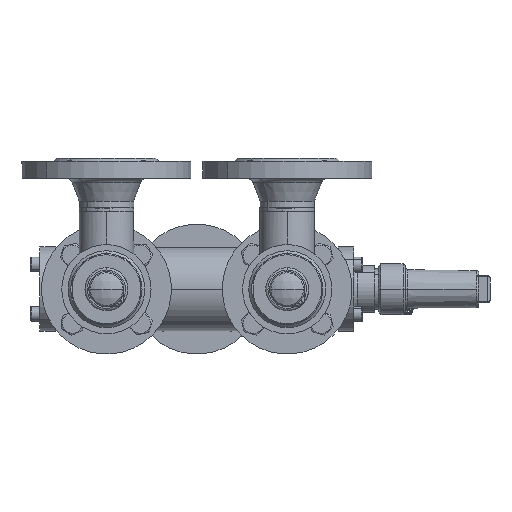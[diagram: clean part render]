
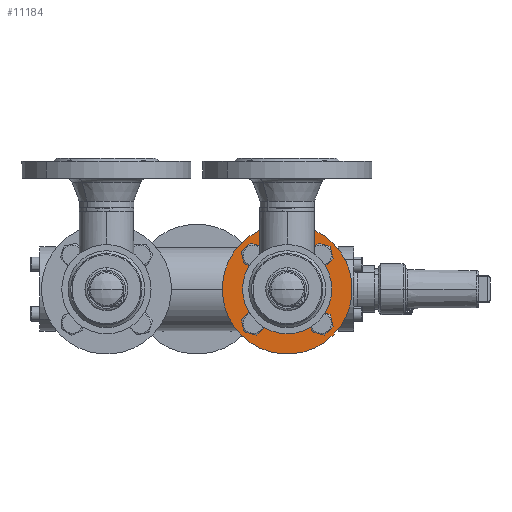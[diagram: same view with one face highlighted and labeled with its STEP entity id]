
A CAD part, left-side view. The second image highlights one B-rep face of the part: STEP entity #11184.
In plain terms, the highlighted planar face has unit normal (-1, 0, 0) as drawn and (0, 1, 0) by its records, which use the part's own axes.
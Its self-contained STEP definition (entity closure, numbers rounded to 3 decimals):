
#16691 = ORIENTED_EDGE ( 'NONE', *, *, #4059, .F. ) ;
#777 = CIRCLE ( 'NONE', #778, 7. ) ;
#778 = AXIS2_PLACEMENT_3D ( 'NONE', #779, #780, #815 ) ;
#779 = CARTESIAN_POINT ( 'NONE',  ( -42.5, 18., 0. ) ) ;
#780 = DIRECTION ( 'NONE',  ( 0., 1., 0. ) ) ;
#815 = DIRECTION ( 'NONE',  ( 1., 0., 0. ) ) ;
#17523 = CIRCLE ( 'NONE', #17524, 7. ) ;
#17524 = AXIS2_PLACEMENT_3D ( 'NONE', #17525, #17526, #17545 ) ;
#17525 = CARTESIAN_POINT ( 'NONE',  ( 0., 18., -42.5 ) ) ;
#17526 = DIRECTION ( 'NONE',  ( 0., 1., 0. ) ) ;
#17545 = DIRECTION ( 'NONE',  ( 0., 0., 1. ) ) ;
#1348 = VERTEX_POINT ( 'NONE', #35461 ) ;
#17764 = EDGE_CURVE ( 'NONE', #23124, #5913, #30249, .T. ) ;
#17860 = CARTESIAN_POINT ( 'NONE',  ( -57.5, 18., 0. ) ) ;
#18246 = CIRCLE ( 'NONE', #18247, 57.5 ) ;
#18247 = AXIS2_PLACEMENT_3D ( 'NONE', #18248, #18249, #18250 ) ;
#18248 = CARTESIAN_POINT ( 'NONE',  ( 0., 18., 0. ) ) ;
#18249 = DIRECTION ( 'NONE',  ( 0., 1., 0. ) ) ;
#18250 = DIRECTION ( 'NONE',  ( -1., 0., 0. ) ) ;
#1892 = VERTEX_POINT ( 'NONE', #36046 ) ;
#18359 = CIRCLE ( 'NONE', #18360, 57.5 ) ;
#18360 = AXIS2_PLACEMENT_3D ( 'NONE', #18361, #18362, #18363 ) ;
#18361 = CARTESIAN_POINT ( 'NONE',  ( 0., 18., 0. ) ) ;
#18362 = DIRECTION ( 'NONE',  ( 0., 1., 0. ) ) ;
#18363 = DIRECTION ( 'NONE',  ( -1., 0., 0. ) ) ;
#2113 = CARTESIAN_POINT ( 'NONE',  ( 49.5, 18., 0. ) ) ;
#18526 = ORIENTED_EDGE ( 'NONE', *, *, #17764, .F. ) ;
#2176 = CARTESIAN_POINT ( 'NONE',  ( 7., 18., -42.5 ) ) ;
#34989 = CIRCLE ( 'NONE', #34990, 7. ) ;
#34990 = AXIS2_PLACEMENT_3D ( 'NONE', #34991, #34992, #34993 ) ;
#34991 = CARTESIAN_POINT ( 'NONE',  ( 0., 18., 42.5 ) ) ;
#34992 = DIRECTION ( 'NONE',  ( 0., 1., 0. ) ) ;
#34993 = DIRECTION ( 'NONE',  ( 0., 0., -1. ) ) ;
#35461 = CARTESIAN_POINT ( 'NONE',  ( 7., 18., 42.5 ) ) ;
#19604 = EDGE_LOOP ( 'NONE', ( #18526, #16691 ) ) ;
#36046 = CARTESIAN_POINT ( 'NONE',  ( 25.748, 18., 0. ) ) ;
#20096 = ORIENTED_EDGE ( 'NONE', *, *, #41493, .F. ) ;
#4019 = ORIENTED_EDGE ( 'NONE', *, *, #32299, .F. ) ;
#4059 = EDGE_CURVE ( 'NONE', #5913, #23124, #40753, .T. ) ;
#21173 = EDGE_CURVE ( 'NONE', #40845, #1348, #34989, .T. ) ;
#21459 = FACE_BOUND ( 'NONE', #10680, .T. ) ;
#21460 = FACE_BOUND ( 'NONE', #6932, .T. ) ;
#21461 = FACE_BOUND ( 'NONE', #23015, .T. ) ;
#21462 = FACE_BOUND ( 'NONE', #19604, .T. ) ;
#21463 = FACE_BOUND ( 'NONE', #16197, .T. ) ;
#21464 = FACE_OUTER_BOUND ( 'NONE', #13800, .T. ) ;
#21488 = PLANE ( 'NONE',  #21489 ) ;
#5107 = EDGE_CURVE ( 'NONE', #31839, #14682, #777, .T. ) ;
#21489 = AXIS2_PLACEMENT_3D ( 'NONE', #21490, #21491, #21492 ) ;
#21490 = CARTESIAN_POINT ( 'NONE',  ( 57.5, 18., 0. ) ) ;
#21491 = DIRECTION ( 'NONE',  ( 0., -1., 0. ) ) ;
#21492 = DIRECTION ( 'NONE',  ( 1., 0., 0. ) ) ;
#21942 = ORIENTED_EDGE ( 'NONE', *, *, #21173, .F. ) ;
#5872 = ORIENTED_EDGE ( 'NONE', *, *, #5107, .F. ) ;
#5913 = VERTEX_POINT ( 'NONE', #2113 ) ;
#6056 = VERTEX_POINT ( 'NONE', #2176 ) ;
#22575 = CIRCLE ( 'NONE', #22597, 25.748 ) ;
#22597 = AXIS2_PLACEMENT_3D ( 'NONE', #22598, #22599, #22600 ) ;
#22598 = CARTESIAN_POINT ( 'NONE',  ( 0., 18., 0. ) ) ;
#22599 = DIRECTION ( 'NONE',  ( 0., 1., 0. ) ) ;
#22600 = DIRECTION ( 'NONE',  ( -1., 0., 0. ) ) ;
#39175 = CARTESIAN_POINT ( 'NONE',  ( -7., 18., 42.5 ) ) ;
#22860 = VERTEX_POINT ( 'NONE', #6924 ) ;
#23015 = EDGE_LOOP ( 'NONE', ( #21942, #20096 ) ) ;
#23124 = VERTEX_POINT ( 'NONE', #7194 ) ;
#6924 = CARTESIAN_POINT ( 'NONE',  ( -7., 18., -42.5 ) ) ;
#23307 = EDGE_CURVE ( 'NONE', #6056, #22860, #7386, .T. ) ;
#6932 = EDGE_LOOP ( 'NONE', ( #5872, #4019 ) ) ;
#7194 = CARTESIAN_POINT ( 'NONE',  ( 35.5, 18., 0. ) ) ;
#7386 = CIRCLE ( 'NONE', #7387, 7. ) ;
#7387 = AXIS2_PLACEMENT_3D ( 'NONE', #7388, #7389, #7390 ) ;
#7388 = CARTESIAN_POINT ( 'NONE',  ( 0., 18., -42.5 ) ) ;
#7389 = DIRECTION ( 'NONE',  ( 0., 1., 0. ) ) ;
#7390 = DIRECTION ( 'NONE',  ( 0., 0., 1. ) ) ;
#7439 = ORIENTED_EDGE ( 'NONE', *, *, #23307, .F. ) ;
#40239 = CARTESIAN_POINT ( 'NONE',  ( -25.748, 18., 0. ) ) ;
#40298 = CIRCLE ( 'NONE', #40299, 7. ) ;
#40299 = AXIS2_PLACEMENT_3D ( 'NONE', #40300, #40301, #40302 ) ;
#40300 = CARTESIAN_POINT ( 'NONE',  ( 0., 18., 42.5 ) ) ;
#40301 = DIRECTION ( 'NONE',  ( 0., 1., 0. ) ) ;
#40302 = DIRECTION ( 'NONE',  ( 0., 0., -1. ) ) ;
#24223 = CARTESIAN_POINT ( 'NONE',  ( -49.5, 18., 0. ) ) ;
#40753 = CIRCLE ( 'NONE', #40754, 7. ) ;
#40754 = AXIS2_PLACEMENT_3D ( 'NONE', #40755, #40792, #40793 ) ;
#40755 = CARTESIAN_POINT ( 'NONE',  ( 42.5, 18., 0. ) ) ;
#40792 = DIRECTION ( 'NONE',  ( 0., 1., 0. ) ) ;
#40793 = DIRECTION ( 'NONE',  ( -1., 0., 0. ) ) ;
#40845 = VERTEX_POINT ( 'NONE', #39175 ) ;
#24557 = CARTESIAN_POINT ( 'NONE',  ( 57.5, 18., 0. ) ) ;
#24712 = CIRCLE ( 'NONE', #24713, 7. ) ;
#24713 = AXIS2_PLACEMENT_3D ( 'NONE', #24735, #24736, #24737 ) ;
#41100 = CIRCLE ( 'NONE', #41101, 25.748 ) ;
#41101 = AXIS2_PLACEMENT_3D ( 'NONE', #41102, #41103, #41104 ) ;
#41102 = CARTESIAN_POINT ( 'NONE',  ( 0., 18., 0. ) ) ;
#41103 = DIRECTION ( 'NONE',  ( 0., 1., 0. ) ) ;
#41104 = DIRECTION ( 'NONE',  ( -1., 0., 0. ) ) ;
#24735 = CARTESIAN_POINT ( 'NONE',  ( -42.5, 18., 0. ) ) ;
#24736 = DIRECTION ( 'NONE',  ( 0., 1., 0. ) ) ;
#24737 = DIRECTION ( 'NONE',  ( 1., 0., 0. ) ) ;
#8503 = EDGE_CURVE ( 'NONE', #22860, #6056, #17523, .T. ) ;
#41385 = VERTEX_POINT ( 'NONE', #40239 ) ;
#41493 = EDGE_CURVE ( 'NONE', #1348, #40845, #40298, .T. ) ;
#42032 = EDGE_CURVE ( 'NONE', #1892, #41385, #41100, .T. ) ;
#9270 = ORIENTED_EDGE ( 'NONE', *, *, #8503, .F. ) ;
#10680 = EDGE_LOOP ( 'NONE', ( #9270, #7439 ) ) ;
#27400 = CARTESIAN_POINT ( 'NONE',  ( -35.5, 18., 0. ) ) ;
#11184 = ADVANCED_FACE ( 'NONE', ( #21459, #21460, #21461, #21462, #21463, #21464 ), #21488, .F. ) ;
#11978 = EDGE_CURVE ( 'NONE', #41385, #1892, #22575, .T. ) ;
#29479 = VERTEX_POINT ( 'NONE', #17860 ) ;
#29782 = EDGE_CURVE ( 'NONE', #32105, #29479, #18246, .T. ) ;
#29934 = EDGE_CURVE ( 'NONE', #29479, #32105, #18359, .T. ) ;
#13800 = EDGE_LOOP ( 'NONE', ( #31611, #30543 ) ) ;
#30249 = CIRCLE ( 'NONE', #30250, 7. ) ;
#30250 = AXIS2_PLACEMENT_3D ( 'NONE', #30251, #30252, #30253 ) ;
#30251 = CARTESIAN_POINT ( 'NONE',  ( 42.5, 18., 0. ) ) ;
#30252 = DIRECTION ( 'NONE',  ( 0., 1., 0. ) ) ;
#30253 = DIRECTION ( 'NONE',  ( -1., 0., 0. ) ) ;
#14082 = ORIENTED_EDGE ( 'NONE', *, *, #42032, .F. ) ;
#30543 = ORIENTED_EDGE ( 'NONE', *, *, #29782, .T. ) ;
#14682 = VERTEX_POINT ( 'NONE', #27400 ) ;
#15135 = ORIENTED_EDGE ( 'NONE', *, *, #11978, .F. ) ;
#31611 = ORIENTED_EDGE ( 'NONE', *, *, #29934, .T. ) ;
#31839 = VERTEX_POINT ( 'NONE', #24223 ) ;
#32105 = VERTEX_POINT ( 'NONE', #24557 ) ;
#32299 = EDGE_CURVE ( 'NONE', #14682, #31839, #24712, .T. ) ;
#16197 = EDGE_LOOP ( 'NONE', ( #15135, #14082 ) ) ;
